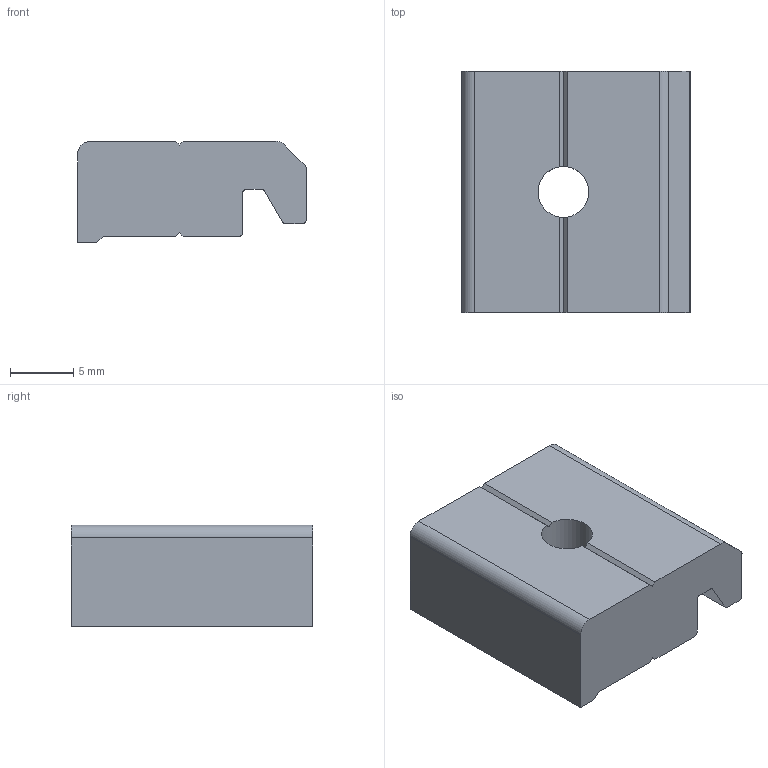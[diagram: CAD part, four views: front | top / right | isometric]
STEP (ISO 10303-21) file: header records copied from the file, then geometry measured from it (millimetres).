
FILE_DESCRIPTION(('STEP AP214'),'1');
FILE_NAME('SL1T-L19.stp','2016-10-19T01:45:08',(' '),(' '),'Spatial InterOp 3D',' ',' ');
FILE_SCHEMA(('automotive_design'));
Length unit declared in the file: millimetre
Products named in the file (1): SL1T-L19
Bounding box: 18 x 19 x 8 mm (x, y, z)
Volume: 2222.6 mm3; surface area: 1343.3 mm2
Topology: 1 solids, 1 shells, 33 faces, 97 edges, 64 vertices
Faces by surface type: plane 24, cylinder 9
Full cylindrical faces by diameter (mm): 4 x1
Entity records: 1382 total; most frequent: CARTESIAN_POINT 194, DIRECTION 192, ORIENTED_EDGE 192, EDGE_CURVE 96, LINE 68, VECTOR 68, VERTEX_POINT 64, AXIS2_PLACEMENT_3D 62
